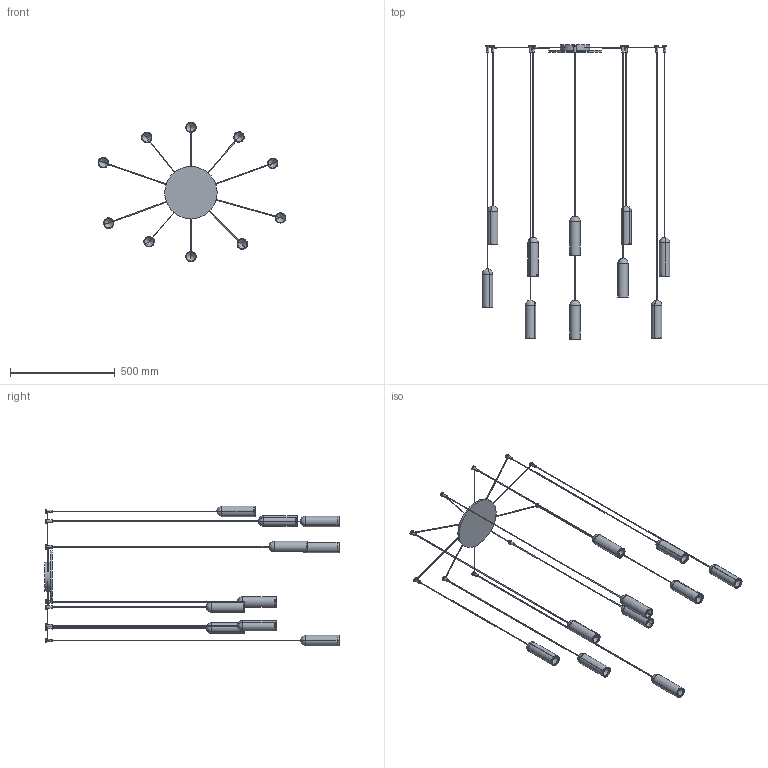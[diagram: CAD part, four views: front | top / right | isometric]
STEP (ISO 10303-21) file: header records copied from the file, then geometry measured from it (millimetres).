
FILE_DESCRIPTION (( 'STEP AP203' ), '1' );
FILE_NAME ('NANA7-00-NANUM_10 sospensione.STEP', '2025-05-05T14:40:55', ( '' ), ( '' ), 'SwSTEP 2.0', 'SolidWorks 2022', '' );
FILE_SCHEMA (( 'CONFIG_CONTROL_DESIGN' ));
Length unit declared in the file: millimetre
Products named in the file (8): NANUM_LAMPADA SINGOLA_H=2050; NANUM_LAMPADA SINGOLA_H=1900; NANA7-00-NANUM_10 sospensione; NANUM_LAMPADA SINGOLA_H=1750; Nanum_Rosone_NANUM_10 sospensione (2000)<A macchina>; NANUM_LAMPADA SINGOLA_H=1800; NANUM_LAMPADA SINGOLA_H=2000; NANUM_LAMPADA SINGOLA_H=1600
Assembly tree (11 placements, depth 2):
  NANA7-00-NANUM_10 sospensione
    Nanum_Rosone_NANUM_10 sospensione (2000)<A macchina>
    NANUM_LAMPADA SINGOLA_H=1750
    NANUM_LAMPADA SINGOLA_H=2050  x2
    NANUM_LAMPADA SINGOLA_H=1900  x2
    NANUM_LAMPADA SINGOLA_H=1600  x3
    NANUM_LAMPADA SINGOLA_H=1800
    NANUM_LAMPADA SINGOLA_H=2000
Bounding box: 895.92 x 1404.5 x 667 mm (x, y, z)
Volume: 1750378.2 mm3; surface area: 898763.7 mm2
Topology: 31 solids, 31 shells, 383 faces, 828 edges, 468 vertices
Faces by surface type: cylinder 200, plane 83, cone 40, sphere 40, torus 20
Entity records: 7570 total; most frequent: CARTESIAN_POINT 1525, DIRECTION 1202, ORIENTED_EDGE 936, AXIS2_PLACEMENT_3D 525, EDGE_CURVE 468, VERTEX_POINT 284, EDGE_LOOP 280, CIRCLE 256
